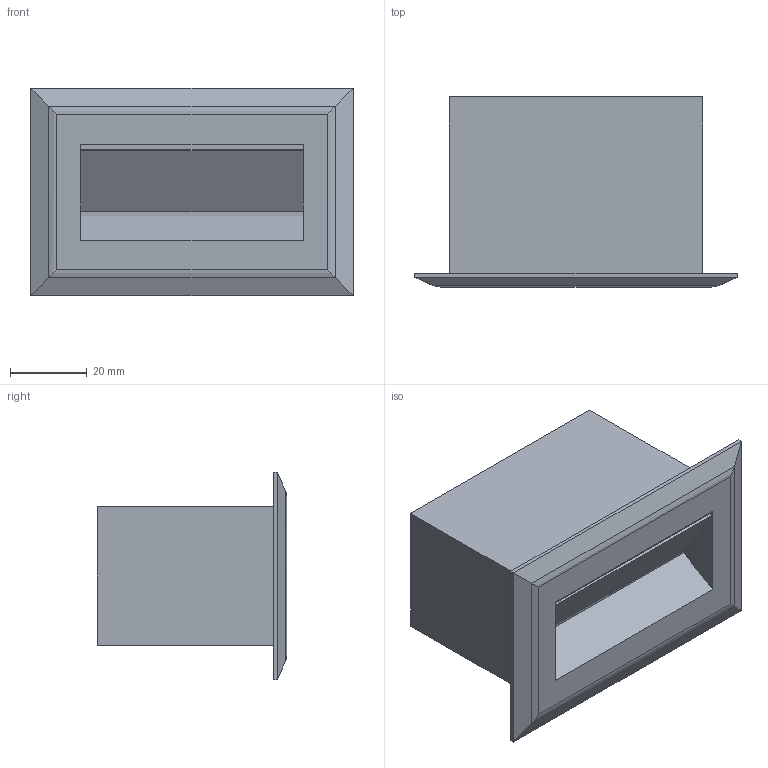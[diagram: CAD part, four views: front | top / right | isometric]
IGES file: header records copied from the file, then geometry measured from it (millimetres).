
Start section: SolidWorks IGES file using analytic representation for surfaces
Global section: file name: X:\PRODUKT\Modele 3D_WWW\_KOLEKCJE WWW\BAY-LED\BAY-LED-S-8164\BAY-LED-S-8164.IGS; native system: SolidWorks 2021; preprocessor: SolidWorks 2021; author: gabriela.tworek; date: 220530.100345; units: millimetre
Bounding box: 84 x 49.5 x 54 mm (x, y, z)
Surface area: 24430.2 mm2 (no closed solid volume)
Topology: 0 solids, 0 shells, 80 faces, 344 edges, 344 vertices
Faces by surface type: bspline 76, revolution 4
